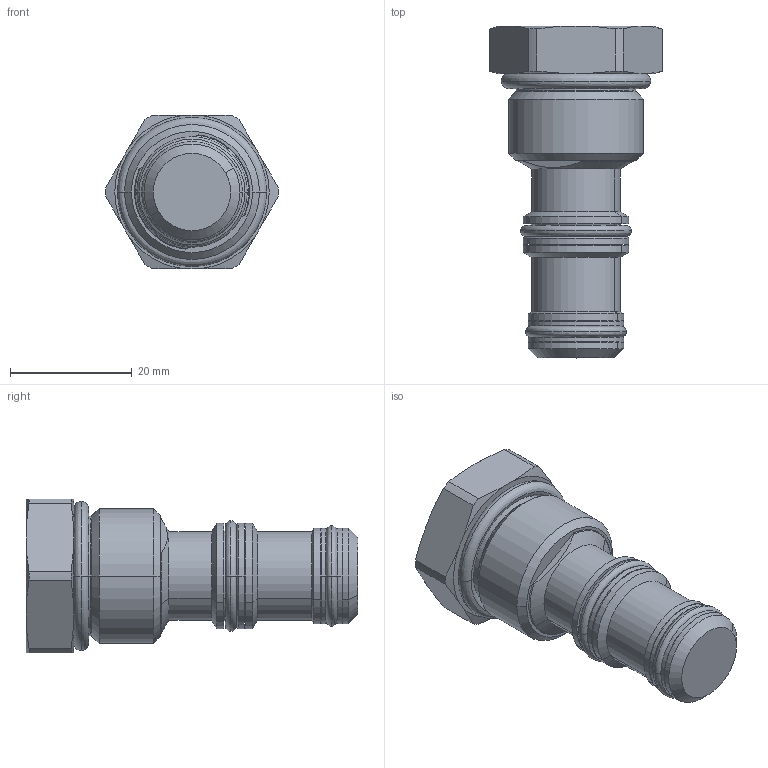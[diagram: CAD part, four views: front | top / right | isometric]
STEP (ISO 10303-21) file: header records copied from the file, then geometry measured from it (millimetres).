
FILE_DESCRIPTION((''),'2;1');
FILE_NAME('5221000_SW0001','2009-02-04T',('jcs'),(''),'PRO/ENGINEER BY PARAMETRIC TECHNOLOGY CORPORATION, 2008010','PRO/ENGINEER BY PARAMETRIC TECHNOLOGY CORPORATION, 2008010','');
FILE_SCHEMA(('CONFIG_CONTROL_DESIGN'));
Length unit declared in the file: inch
Products named in the file (1): 5221000_SW0001
Bounding box: 28.44 x 54.61 x 25.34 mm (x, y, z)
Volume: 15944.3 mm3; surface area: 6086.6 mm2
Topology: 4 solids, 4 shells, 123 faces, 272 edges, 162 vertices
Faces by surface type: cylinder 32, cone 26, revolution 24, plane 21, torus 20
Entity records: 3916 total; most frequent: CARTESIAN_POINT 1141, DIRECTION 592, ORIENTED_EDGE 544, EDGE_CURVE 272, AXIS2_PLACEMENT_3D 251, VERTEX_POINT 162, CIRCLE 152, EDGE_LOOP 134
